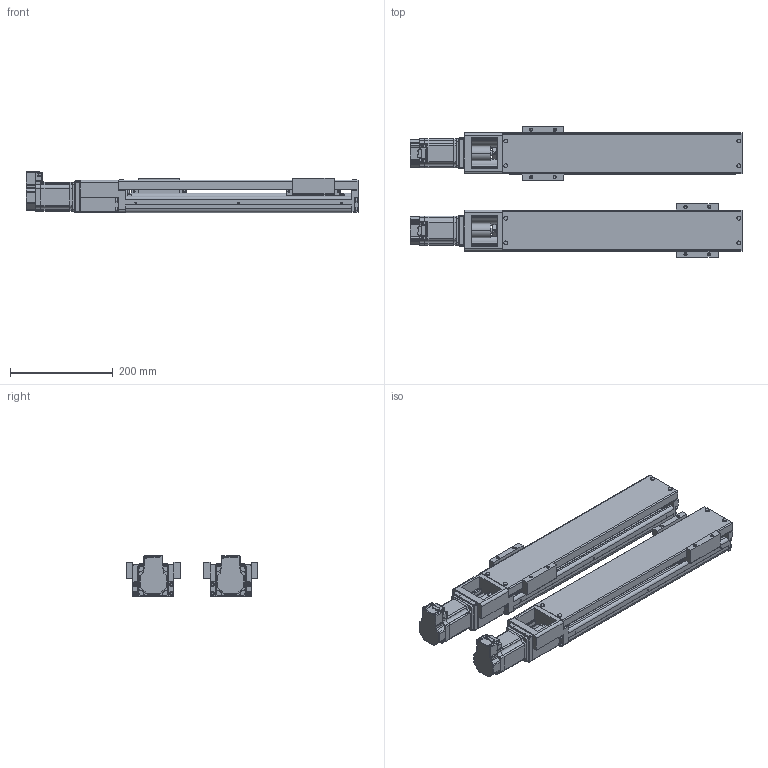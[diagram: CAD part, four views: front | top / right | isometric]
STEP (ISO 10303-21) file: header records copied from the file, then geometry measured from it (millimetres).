
FILE_DESCRIPTION(('STEP AP214'),'1');
FILE_NAME('C:\Users\RA\Desktop\作業\防塵\3D\砲台なし\DXF\2015.11.11\3D\tmp0.step',' ',(' '),(' '),'XStep 1.0',' ',' ');
FILE_SCHEMA(('automotive_design'));
Length unit declared in the file: millimetre
Products named in the file (42): 106; 67; 111; 70; 107; 69; 105; 110; 103; 101; 68; 108; 112; 104; 102; 100; 109; KR45H10A-0300-0-10A0(0-01)|_KR45H0A-440L-1A0(1_DM)-BodyCS;_KR45H0A-440L-1A0(1_DM)-BodyCS; KR45H10A-0300-0-10A0(0-01)|_KR45H(A300111)-SliderCS;_KR45H(A300111)-SliderCS; KR45H10A-0300-0-10A0(0-01)|_KR45H-A(1)-Slider SpacerCS;_KR45H-A(1)-Slider SpacerCS; KR45H10A-0300-0-10A0(0-01)|_KR45H-440-Protected CoverCS;_KR45H-440-Protected CoverCS
Bounding box: 645 x 254 x 81 mm (x, y, z)
Volume: 3320540.7 mm3; surface area: 880174.3 mm2
Topology: 42 solids, 42 shells, 3260 faces, 8318 edges, 5198 vertices
Faces by surface type: plane 1572, cylinder 1082, cone 396, torus 150, bspline 56, sphere 4
Entity records: 127379 total; most frequent: CARTESIAN_POINT 20234, DIRECTION 17304, ORIENTED_EDGE 16340, EDGE_CURVE 8170, AXIS2_PLACEMENT_3D 6034, LINE 5236, VECTOR 5236, VERTEX_POINT 5196
